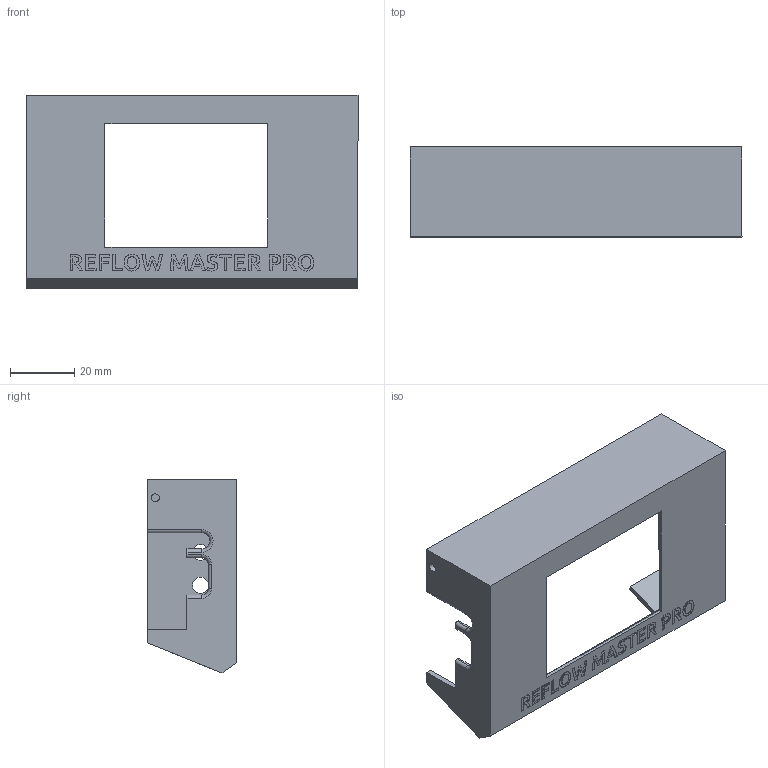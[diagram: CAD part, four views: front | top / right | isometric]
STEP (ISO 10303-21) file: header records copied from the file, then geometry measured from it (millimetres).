
FILE_DESCRIPTION(/* description */ ('','CAx-IF Rec.Pracs.---Representation and Presentation of Product Manufacturing Information (PMI)---4.0---2014-10-13'),/* implementation_level */ '2;1');
FILE_NAME(/* name */ 'RMP Case 2025-02 Front.step',/* time_stamp */ '2025-01-31T08:25:17+11:00',/* author */ (''),/* organization */ (''),/* preprocessor_version */ 'ST-DEVELOPER v20',/* originating_system */ 'Autodesk Translation Framework v13.20.0.188',/* authorisation */ '');
FILE_SCHEMA (('AP242_MANAGED_MODEL_BASED_3D_ENGINEERING_MIM_LF { 1 0 10303 442 1 1 4 }'));
Length unit declared in the file: millimetre
Products named in the file (2): RMP Case 2025-02; Case_SLIM
Assembly tree (2 placements, depth 2):
  RMP Case 2025-02
    Case_SLIM  x2
Bounding box: 103 x 27.89 x 60.1 mm (x, y, z)
Volume: 35268.5 mm3; surface area: 44934.8 mm2
Topology: 2 solids, 2 shells, 882 faces, 2488 edges, 1656 vertices
Faces by surface type: bspline 506, plane 322, cylinder 40, torus 14
Full cylindrical faces by diameter (mm): 2.5 x4, 5 x8
Entity records: 17129 total; most frequent: CARTESIAN_POINT 7321, ORIENTED_EDGE 2488, EDGE_CURVE 1244, DIRECTION 1173, VERTEX_POINT 828, LINE 687, VECTOR 687, B_SPLINE_CURVE_WITH_KNOTS 506
